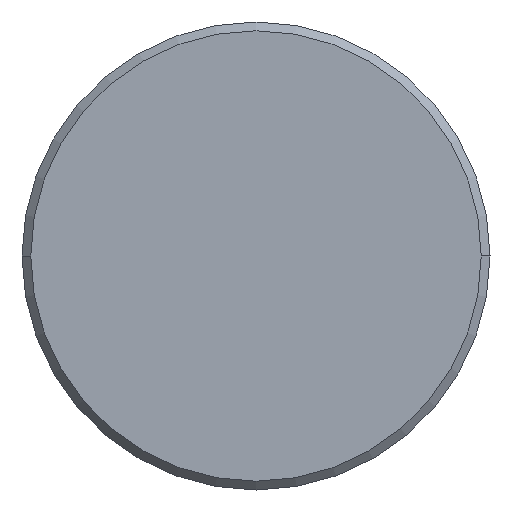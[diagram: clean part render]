
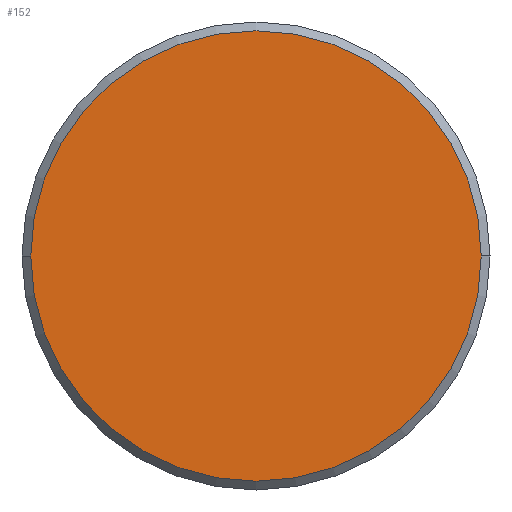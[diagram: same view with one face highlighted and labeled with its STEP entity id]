
A CAD part, left-side view. The second image highlights one B-rep face of the part: STEP entity #152.
In plain terms, the highlighted planar face has unit normal (-1, 0, 0).
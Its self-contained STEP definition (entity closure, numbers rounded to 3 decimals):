
#4 = AXIS2_PLACEMENT_3D ( 'NONE', #391, #168, #48 ) ;
#18 = DIRECTION ( 'NONE',  ( 1., 0., 0. ) ) ;
#25 = EDGE_LOOP ( 'NONE', ( #296, #256 ) ) ;
#35 = CIRCLE ( 'NONE', #4, 7.7 ) ;
#48 = DIRECTION ( 'NONE',  ( 0., 1., 0. ) ) ;
#67 = DIRECTION ( 'NONE',  ( 0., 1., 0. ) ) ;
#85 = PLANE ( 'NONE',  #461 ) ;
#88 = CIRCLE ( 'NONE', #357, 7.7 ) ;
#152 = ADVANCED_FACE ( 'NONE', ( #267 ), #85, .T. ) ;
#168 = DIRECTION ( 'NONE',  ( 1., 0., 0. ) ) ;
#204 = VERTEX_POINT ( 'NONE', #245 ) ;
#213 = CARTESIAN_POINT ( 'NONE',  ( -50., -7.7, 0. ) ) ;
#237 = CARTESIAN_POINT ( 'NONE',  ( -50., 3.85, 0. ) ) ;
#245 = CARTESIAN_POINT ( 'NONE',  ( -50., 7.7, 0. ) ) ;
#256 = ORIENTED_EDGE ( 'NONE', *, *, #396, .F. ) ;
#267 = FACE_OUTER_BOUND ( 'NONE', #25, .T. ) ;
#291 = EDGE_CURVE ( 'NONE', #204, #404, #35, .T. ) ;
#296 = ORIENTED_EDGE ( 'NONE', *, *, #291, .F. ) ;
#351 = DIRECTION ( 'NONE',  ( -1., 0., 0. ) ) ;
#357 = AXIS2_PLACEMENT_3D ( 'NONE', #376, #18, #67 ) ;
#376 = CARTESIAN_POINT ( 'NONE',  ( -50., 0., 0. ) ) ;
#387 = DIRECTION ( 'NONE',  ( 0., 0., 1. ) ) ;
#391 = CARTESIAN_POINT ( 'NONE',  ( -50., 0., 0. ) ) ;
#396 = EDGE_CURVE ( 'NONE', #404, #204, #88, .T. ) ;
#404 = VERTEX_POINT ( 'NONE', #213 ) ;
#461 = AXIS2_PLACEMENT_3D ( 'NONE', #237, #351, #387 ) ;
